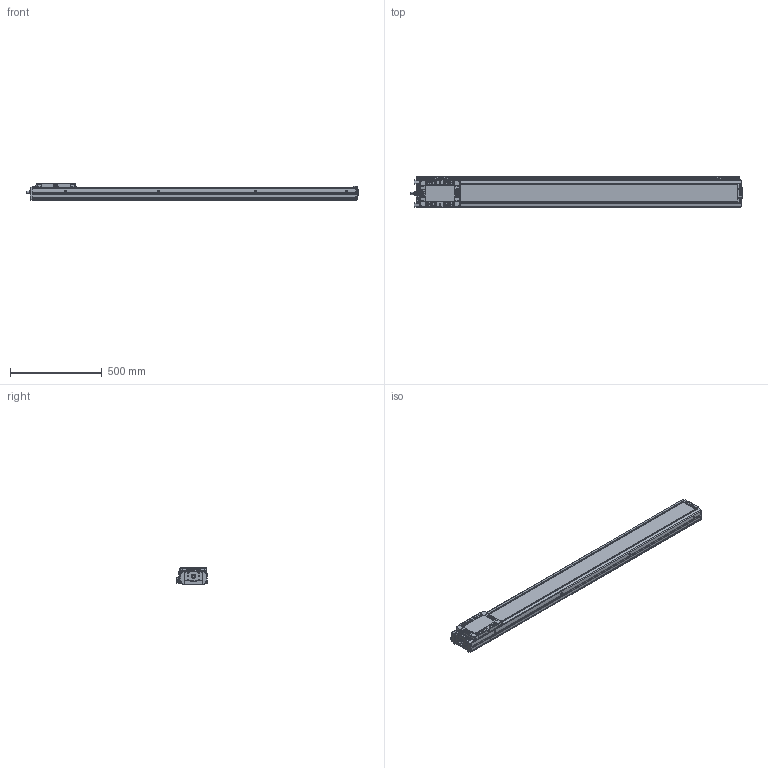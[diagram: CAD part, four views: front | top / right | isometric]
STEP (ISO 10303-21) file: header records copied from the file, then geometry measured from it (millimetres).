
FILE_DESCRIPTION(('STEP AP214'),'1');
FILE_NAME('Z:/Web/3D/SAN150/2013.04 (STP.)/SAN150ㅁㅁ-1500+3SL.stp','2013-05-07T08:16:11',(' '),(' '),'Spatial InterOp 3D',' ',' ');
FILE_SCHEMA(('automotive_design'));
Length unit declared in the file: millimetre
Products named in the file (57): M3.0 x 6.0; SRL-16x17-360L; SGD-SAN150; EE-SX674; SBK-SX674-352; 스크루 : Round - M3.0 x 6.0; BHCS M4.0 x 10.0; SLBL-SAN150; SLCV-SAN150; FHCS M4.0 x 8.0; SFX-SAN150; RRCV-SAN150; FRBL-SAN150; Spacer; RN15; FRCV-SAN150; Screw 20; BASE-SAN150-000L ; SUS COVER; 스크루 : Round - M5.0 x 6.0
Bounding box: 1808 x 166 x 90 mm (x, y, z)
Volume: 9273000.2 mm3; surface area: 1873645.8 mm2
Topology: 57 solids, 57 shells, 2818 faces, 7271 edges, 4652 vertices
Faces by surface type: plane 1408, cylinder 955, cone 346, sphere 76, bspline 21, torus 12
Entity records: 112427 total; most frequent: CARTESIAN_POINT 18592, DIRECTION 15358, ORIENTED_EDGE 14254, EDGE_CURVE 7127, AXIS2_PLACEMENT_3D 5509, VERTEX_POINT 4652, LINE 4340, VECTOR 4340
